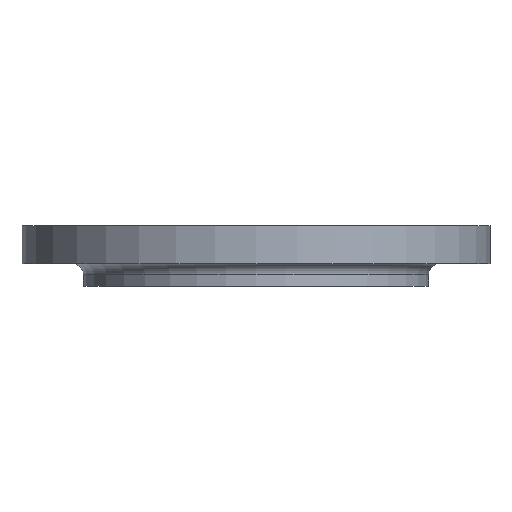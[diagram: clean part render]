
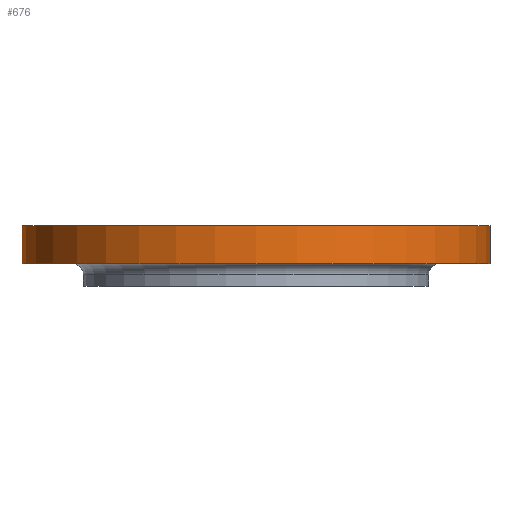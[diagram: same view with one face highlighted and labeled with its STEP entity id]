
A CAD part, front view. The second image highlights one B-rep face of the part: STEP entity #676.
In plain terms, the highlighted cylindrical face has radius 257.5 mm (diameter 515 mm), a partial arc.
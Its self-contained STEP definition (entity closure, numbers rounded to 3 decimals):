
#22 = CARTESIAN_POINT ( 'NONE',  ( -257.5, 0., 0. ) ) ;
#113 = EDGE_CURVE ( 'NONE', #1402, #1362, #404, .T. ) ;
#114 = DIRECTION ( 'NONE',  ( 1., 0., 0. ) ) ;
#116 = DIRECTION ( 'NONE',  ( 0., 0., 1. ) ) ;
#117 = CARTESIAN_POINT ( 'NONE',  ( 0., 0., -42. ) ) ;
#177 = CARTESIAN_POINT ( 'NONE',  ( -257.5, 0., -42. ) ) ;
#191 = VERTEX_POINT ( 'NONE', #22 ) ;
#229 = EDGE_LOOP ( 'NONE', ( #1006, #1009, #1015, #1019 ) ) ;
#346 = DIRECTION ( 'NONE',  ( 0., 0., 1. ) ) ;
#348 = CARTESIAN_POINT ( 'NONE',  ( -257.5, 0., -125. ) ) ;
#349 = LINE ( 'NONE', #348, #946 ) ;
#371 = DIRECTION ( 'NONE',  ( 1., 0., 0. ) ) ;
#373 = DIRECTION ( 'NONE',  ( 0., 0., 1. ) ) ;
#374 = CARTESIAN_POINT ( 'NONE',  ( 0., 0., 0. ) ) ;
#404 = CIRCLE ( 'NONE', #971, 257.5 ) ;
#503 = EDGE_CURVE ( 'NONE', #1362, #1129, #1209, .T. ) ;
#525 = CARTESIAN_POINT ( 'NONE',  ( 257.5, 0., -42. ) ) ;
#615 = CARTESIAN_POINT ( 'NONE',  ( 257.5, 0., 0. ) ) ;
#644 = AXIS2_PLACEMENT_3D ( 'NONE', #374, #373, #371 ) ;
#676 = ADVANCED_FACE ( 'NONE', ( #901 ), #899, .T. ) ;
#895 = DIRECTION ( 'NONE',  ( 1., 0., 0. ) ) ;
#896 = DIRECTION ( 'NONE',  ( 0., 0., 1. ) ) ;
#897 = CARTESIAN_POINT ( 'NONE',  ( 0., 0., -125. ) ) ;
#899 = CYLINDRICAL_SURFACE ( 'NONE', #1283, 257.5 ) ;
#901 = FACE_OUTER_BOUND ( 'NONE', #229, .T. ) ;
#930 = VECTOR ( 'NONE', #1204, 1000. ) ;
#946 = VECTOR ( 'NONE', #346, 1000. ) ;
#971 = AXIS2_PLACEMENT_3D ( 'NONE', #117, #116, #114 ) ;
#1006 = ORIENTED_EDGE ( 'NONE', *, *, #1520, .F. ) ;
#1009 = ORIENTED_EDGE ( 'NONE', *, *, #113, .T. ) ;
#1015 = ORIENTED_EDGE ( 'NONE', *, *, #503, .T. ) ;
#1019 = ORIENTED_EDGE ( 'NONE', *, *, #1503, .F. ) ;
#1129 = VERTEX_POINT ( 'NONE', #615 ) ;
#1204 = DIRECTION ( 'NONE',  ( 0., 0., 1. ) ) ;
#1207 = CARTESIAN_POINT ( 'NONE',  ( 257.5, 0., -125. ) ) ;
#1209 = LINE ( 'NONE', #1207, #930 ) ;
#1283 = AXIS2_PLACEMENT_3D ( 'NONE', #897, #896, #895 ) ;
#1310 = CIRCLE ( 'NONE', #644, 257.5 ) ;
#1362 = VERTEX_POINT ( 'NONE', #525 ) ;
#1402 = VERTEX_POINT ( 'NONE', #177 ) ;
#1503 = EDGE_CURVE ( 'NONE', #191, #1129, #1310, .T. ) ;
#1520 = EDGE_CURVE ( 'NONE', #1402, #191, #349, .T. ) ;
